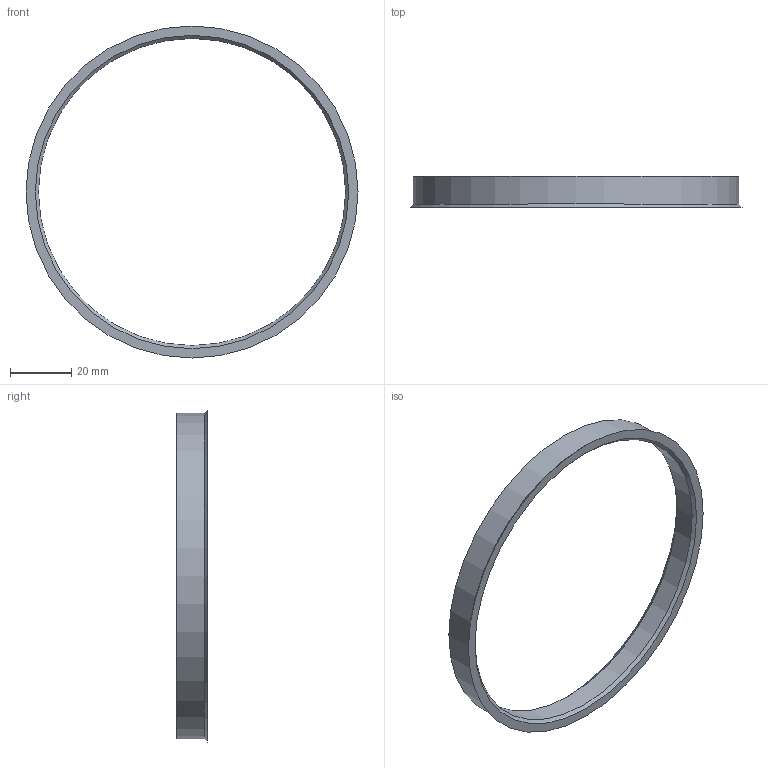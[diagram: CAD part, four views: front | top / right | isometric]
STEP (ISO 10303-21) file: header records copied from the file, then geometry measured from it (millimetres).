
FILE_DESCRIPTION(/* description */ (''),/* implementation_level */ '2;1');
FILE_NAME(/* name */ 'G:\CAD Library\Team Tasks\DIPP\11th Intake\Bradley Coles\Design Drafting\Random\Hub Rings\ipt\HubRing_106.2-100.1.stp',/* time_stamp */ '2025-07-22T13:42:07+08:00',/* author */ ('BCOLES'),/* organization */ (''),/* preprocessor_version */ 'ST-DEVELOPER v18.1',/* originating_system */ 'Autodesk Inventor 2022',/* authorisation */ '');
FILE_SCHEMA (('AUTOMOTIVE_DESIGN { 1 0 10303 214 3 1 1 }'));
Length unit declared in the file: millimetre
Products named in the file (1): HubRing_106.2-100.1
Bounding box: 108.2 x 10 x 108.2 mm (x, y, z)
Volume: 9255.9 mm3; surface area: 8391.1 mm2
Topology: 1 solids, 1 shells, 7 faces, 13 edges, 8 vertices
Faces by surface type: cone 3, cylinder 2, plane 2
Full cylindrical faces by diameter (mm): 100.1 x1, 106.2 x1
Entity records: 226 total; most frequent: DIRECTION 37, CARTESIAN_POINT 29, ORIENTED_EDGE 26, AXIS2_PLACEMENT_3D 16, EDGE_CURVE 13, EDGE_LOOP 9, CIRCLE 8, VERTEX_POINT 8
